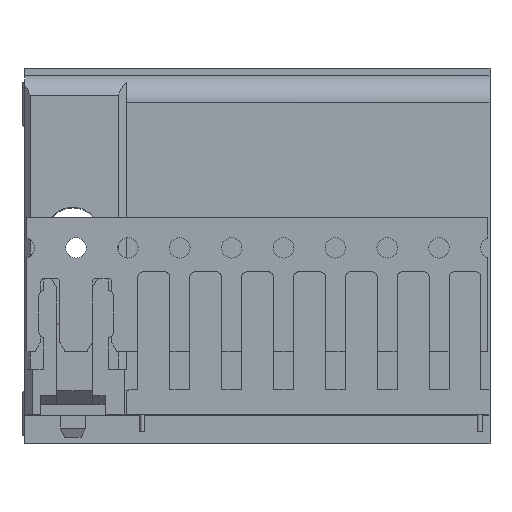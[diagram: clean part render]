
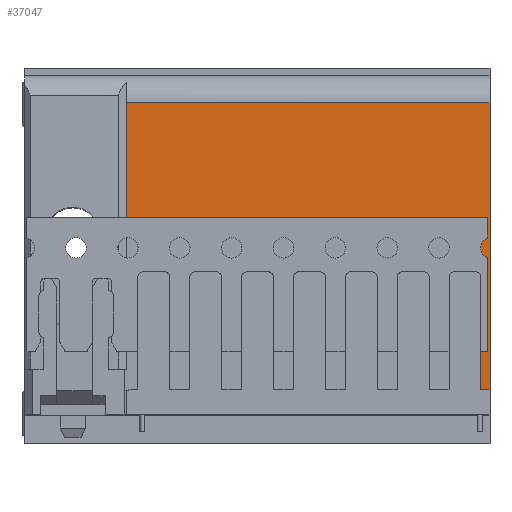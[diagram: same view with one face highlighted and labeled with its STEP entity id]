
A CAD part, top view. The second image highlights one B-rep face of the part: STEP entity #37047.
In plain terms, the highlighted planar face has unit normal (0, 0, 1).
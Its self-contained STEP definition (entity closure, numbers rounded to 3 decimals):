
#1354=DIRECTION('',(0.,-1.,0.));
#1355=VECTOR('',#1354,21.024);
#1356=CARTESIAN_POINT('',(66.009,31.186,58.287));
#1357=LINE('',#1356,#1355);
#1965=DIRECTION('',(0.,1.,0.));
#1966=VECTOR('',#1965,2.793);
#1967=CARTESIAN_POINT('',(65.348,10.162,58.287));
#1968=LINE('',#1967,#1966);
#1981=DIRECTION('',(1.,0.,0.));
#1982=VECTOR('',#1981,0.515);
#1983=CARTESIAN_POINT('',(65.348,12.955,58.287));
#1984=LINE('',#1983,#1982);
#1985=DIRECTION('',(0.,1.,0.));
#1986=VECTOR('',#1985,6.891);
#1987=CARTESIAN_POINT('',(65.863,12.955,58.287));
#1988=LINE('',#1987,#1986);
#1997=DIRECTION('',(0.,-1.,0.));
#1998=VECTOR('',#1997,8.396);
#1999=CARTESIAN_POINT('',(39.403,31.186,58.287));
#2000=LINE('',#1999,#1998);
#2001=DIRECTION('',(1.,0.,0.));
#2002=VECTOR('',#2001,0.662);
#2003=CARTESIAN_POINT('',(65.348,10.162,58.287));
#2004=LINE('',#2003,#2002);
#2005=CARTESIAN_POINT('',(66.078,20.565,58.287));
#2006=DIRECTION('',(0.,0.,1.));
#2007=DIRECTION('',(-1.,0.,0.));
#2008=AXIS2_PLACEMENT_3D('',#2005,#2006,#2007);
#2010=CARTESIAN_POINT('',(66.078,20.565,58.287));
#2011=DIRECTION('',(0.,0.,1.));
#2012=DIRECTION('',(-0.287,0.958,0.));
#2013=AXIS2_PLACEMENT_3D('',#2010,#2011,#2012);
#2031=DIRECTION('',(-1.,0.,0.));
#2032=VECTOR('',#2031,26.46);
#2033=CARTESIAN_POINT('',(65.863,22.79,58.287));
#2034=LINE('',#2033,#2032);
#5078=DIRECTION('',(1.,0.,0.));
#5079=VECTOR('',#5078,26.607);
#5080=CARTESIAN_POINT('',(39.403,31.186,58.287));
#5081=LINE('',#5080,#5079);
#25544=DIRECTION('',(0.,1.,0.));
#25545=VECTOR('',#25544,1.506);
#25546=CARTESIAN_POINT('',(65.863,21.284,58.287));
#25547=LINE('',#25546,#25545);
#26743=CARTESIAN_POINT('',(39.403,31.186,58.287));
#26744=VERTEX_POINT('',#26743);
#26745=CARTESIAN_POINT('',(39.403,22.79,58.287));
#26746=VERTEX_POINT('',#26745);
#31845=CARTESIAN_POINT('',(66.009,31.186,58.287));
#31846=VERTEX_POINT('',#31845);
#31847=CARTESIAN_POINT('',(66.009,10.162,58.287));
#31848=VERTEX_POINT('',#31847);
#31849=CARTESIAN_POINT('',(65.348,10.162,58.287));
#31850=VERTEX_POINT('',#31849);
#31851=CARTESIAN_POINT('',(65.348,12.955,58.287));
#31852=VERTEX_POINT('',#31851);
#31853=CARTESIAN_POINT('',(65.863,12.955,58.287));
#31854=VERTEX_POINT('',#31853);
#31855=CARTESIAN_POINT('',(65.863,19.847,58.287));
#31856=VERTEX_POINT('',#31855);
#31857=CARTESIAN_POINT('',(65.863,21.284,58.287));
#31858=CARTESIAN_POINT('',(65.328,20.565,58.287));
#31859=VERTEX_POINT('',#31857);
#31860=VERTEX_POINT('',#31858);
#31861=CARTESIAN_POINT('',(65.863,22.79,58.287));
#31862=VERTEX_POINT('',#31861);
#37023=CARTESIAN_POINT('',(51.137,27.55,58.287));
#37024=DIRECTION('',(0.,0.,1.));
#37025=DIRECTION('',(0.,1.,0.));
#37026=AXIS2_PLACEMENT_3D('',#37023,#37024,#37025);
#37027=PLANE('',#37026);
#37029=ORIENTED_EDGE('',*,*,#37028,.T.);
#37030=ORIENTED_EDGE('',*,*,#34966,.F.);
#37032=ORIENTED_EDGE('',*,*,#37031,.T.);
#37033=ORIENTED_EDGE('',*,*,#36063,.T.);
#37035=ORIENTED_EDGE('',*,*,#37034,.F.);
#37036=ORIENTED_EDGE('',*,*,#36986,.T.);
#37037=ORIENTED_EDGE('',*,*,#37004,.T.);
#37038=ORIENTED_EDGE('',*,*,#37014,.T.);
#37040=ORIENTED_EDGE('',*,*,#37039,.F.);
#37042=ORIENTED_EDGE('',*,*,#37041,.F.);
#37044=ORIENTED_EDGE('',*,*,#37043,.T.);
#37045=EDGE_LOOP('',(#37029,#37030,#37032,#37033,#37035,#37036,#37037,#37038,
#37040,#37042,#37044));
#37046=FACE_OUTER_BOUND('',#37045,.F.);
#37047=ADVANCED_FACE('',(#37046),#37027,.T.);
#2009=CIRCLE('',#2008,0.75);
#2014=CIRCLE('',#2013,0.75);
#34966=EDGE_CURVE('',#26744,#26746,#2000,.T.);
#36063=EDGE_CURVE('',#31846,#31848,#1357,.T.);
#36986=EDGE_CURVE('',#31850,#31852,#1968,.T.);
#37004=EDGE_CURVE('',#31852,#31854,#1984,.T.);
#37014=EDGE_CURVE('',#31854,#31856,#1988,.T.);
#37028=EDGE_CURVE('',#31862,#26746,#2034,.T.);
#37031=EDGE_CURVE('',#26744,#31846,#5081,.T.);
#37034=EDGE_CURVE('',#31850,#31848,#2004,.T.);
#37039=EDGE_CURVE('',#31860,#31856,#2009,.T.);
#37041=EDGE_CURVE('',#31859,#31860,#2014,.T.);
#37043=EDGE_CURVE('',#31859,#31862,#25547,.T.);
